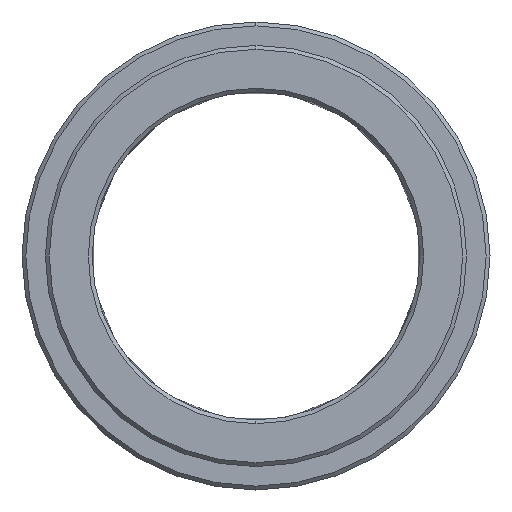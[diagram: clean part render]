
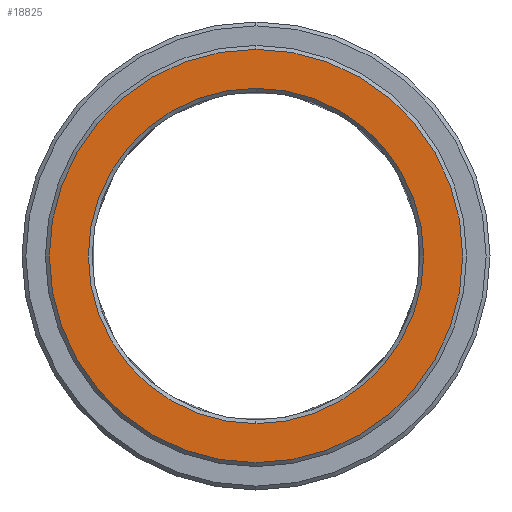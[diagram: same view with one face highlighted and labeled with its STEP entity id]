
A CAD part, left-side view. The second image highlights one B-rep face of the part: STEP entity #18825.
In plain terms, the highlighted planar face has unit normal (-1, 0, 0).
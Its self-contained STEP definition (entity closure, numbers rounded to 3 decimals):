
#13234=CARTESIAN_POINT('',(-10.,0.,
0.));
#13235=DIRECTION('',(1.,0.,0.));
#13236=DIRECTION('',(0.,0.,1.));
#13237=AXIS2_PLACEMENT_3D('',#13234,#13235,#13236);
#13239=CARTESIAN_POINT('',(-10.,0.,
0.));
#13240=DIRECTION('',(1.,0.,0.));
#13241=DIRECTION('',(0.,0.,-1.));
#13242=AXIS2_PLACEMENT_3D('',#13239,#13240,#13241);
#13244=CARTESIAN_POINT('',(-10.,0.,0.));
#13245=DIRECTION('',(1.,0.,0.));
#13246=DIRECTION('',(0.,0.,1.));
#13247=AXIS2_PLACEMENT_3D('',#13244,#13245,#13246);
#13249=CARTESIAN_POINT('',(-10.,0.,
0.));
#13250=DIRECTION('',(1.,0.,0.));
#13251=DIRECTION('',(0.,0.,-1.));
#13252=AXIS2_PLACEMENT_3D('',#13249,#13250,#13251);
#13952=CARTESIAN_POINT('',(-10.,0.,21.5));
#13953=CARTESIAN_POINT('',(-10.,0.,-21.5));
#13954=VERTEX_POINT('',#13952);
#13955=VERTEX_POINT('',#13953);
#13960=CARTESIAN_POINT('',(-10.,0.,26.5));
#13961=CARTESIAN_POINT('',(-10.,0.,
-26.5));
#13962=VERTEX_POINT('',#13960);
#13963=VERTEX_POINT('',#13961);
#18810=CARTESIAN_POINT('',(-10.,0.,0.));
#18811=DIRECTION('',(1.,0.,0.));
#18812=DIRECTION('',(0.,0.,1.));
#18813=AXIS2_PLACEMENT_3D('',#18810,#18811,#18812);
#18814=PLANE('',#18813);
#18815=ORIENTED_EDGE('',*,*,#18777,.T.);
#18816=ORIENTED_EDGE('',*,*,#18792,.T.);
#18817=EDGE_LOOP('',(#18815,#18816));
#18818=FACE_OUTER_BOUND('',#18817,.F.);
#18820=ORIENTED_EDGE('',*,*,#18819,.F.);
#18822=ORIENTED_EDGE('',*,*,#18821,.F.);
#18823=EDGE_LOOP('',(#18820,#18822));
#18824=FACE_BOUND('',#18823,.F.);
#18825=ADVANCED_FACE('',(#18818,#18824),#18814,.F.);
#13238=CIRCLE('',#13237,26.5);
#13243=CIRCLE('',#13242,26.5);
#13248=CIRCLE('',#13247,21.5);
#13253=CIRCLE('',#13252,21.5);
#18777=EDGE_CURVE('',#13962,#13963,#13238,.T.);
#18792=EDGE_CURVE('',#13963,#13962,#13243,.T.);
#18819=EDGE_CURVE('',#13954,#13955,#13248,.T.);
#18821=EDGE_CURVE('',#13955,#13954,#13253,.T.);
